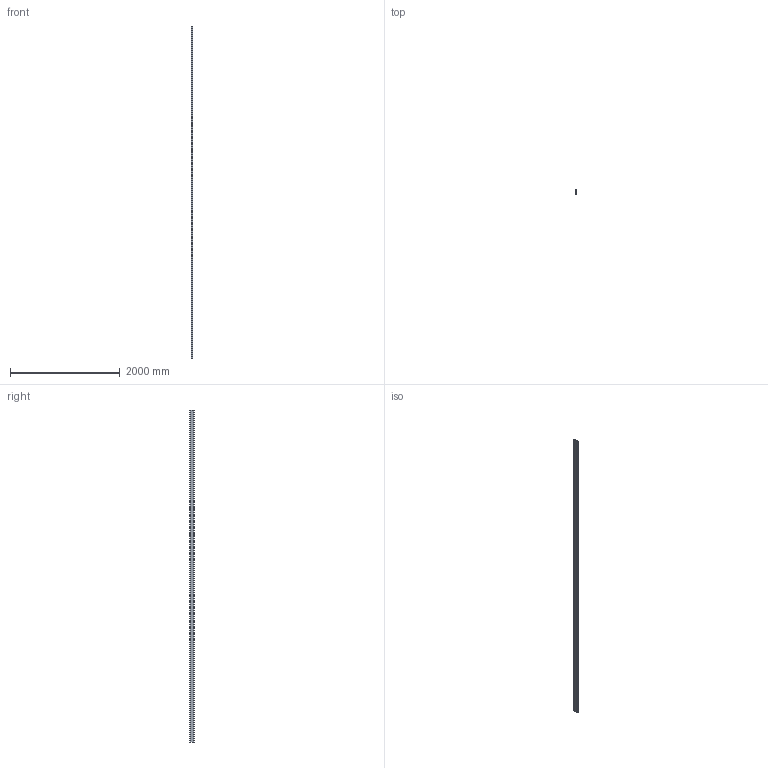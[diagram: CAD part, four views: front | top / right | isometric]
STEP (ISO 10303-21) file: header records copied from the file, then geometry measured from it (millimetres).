
FILE_DESCRIPTION (( 'STEP AP203' ), '1' );
FILE_NAME ('20104160_Profil 30x90 Nut 8 6N_0.step', '2021-06-18T09:55:24', ( '' ), ( '' ), 'SwSTEP 2.0', 'SolidWorks 2021', '' );
FILE_SCHEMA (( 'CONFIG_CONTROL_DESIGN' ));
Length unit declared in the file: millimetre
Products named in the file (1): 20104160_Profil 30x90 Nut 8 6N_0
Bounding box: 30 x 90 x 6060 mm (x, y, z)
Volume: 3925215.3 mm3; surface area: 4226994 mm2
Topology: 1 solids, 1 shells, 160 faces, 474 edges, 316 vertices
Faces by surface type: plane 142, cylinder 18
Entity records: 5379 total; most frequent: CARTESIAN_POINT 951, ORIENTED_EDGE 948, DIRECTION 832, EDGE_CURVE 474, LINE 438, VECTOR 438, VERTEX_POINT 316, AXIS2_PLACEMENT_3D 197
